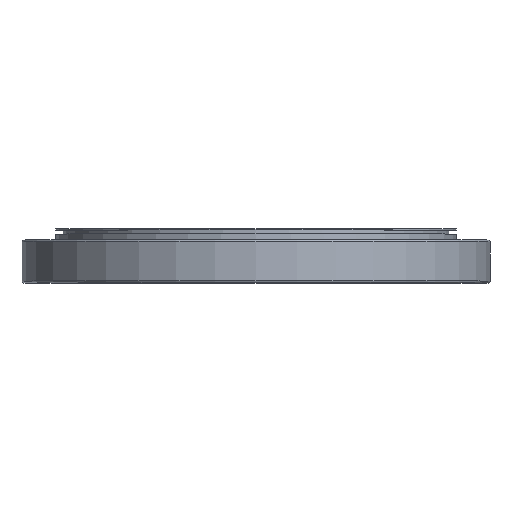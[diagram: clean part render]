
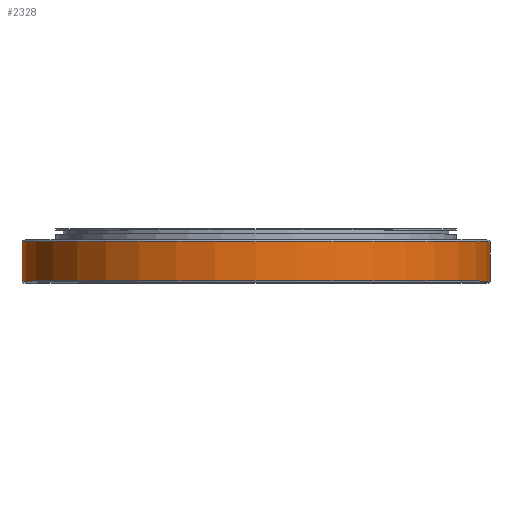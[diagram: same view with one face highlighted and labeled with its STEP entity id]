
A CAD part, top view. The second image highlights one B-rep face of the part: STEP entity #2328.
In plain terms, the highlighted cylindrical face has radius 242 mm (diameter 484 mm), a partial arc.
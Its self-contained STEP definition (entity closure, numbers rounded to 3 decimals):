
#857=DIRECTION('',(0.,-1.,0.));
#858=VECTOR('',#857,40.5);
#859=CARTESIAN_POINT('',(-242.,42.5,0.));
#860=LINE('',#859,#858);
#866=DIRECTION('',(0.,-1.,0.));
#867=VECTOR('',#866,40.5);
#868=CARTESIAN_POINT('',(242.,42.5,0.));
#869=LINE('',#868,#867);
#870=CARTESIAN_POINT('',(0.,42.5,0.));
#871=DIRECTION('',(0.,-1.,0.));
#872=DIRECTION('',(1.,0.,0.));
#873=AXIS2_PLACEMENT_3D('',#870,#871,#872);
#875=CARTESIAN_POINT('',(0.,2.,0.));
#876=DIRECTION('',(0.,-1.,0.));
#877=DIRECTION('',(1.,0.,0.));
#878=AXIS2_PLACEMENT_3D('',#875,#876,#877);
#1123=CARTESIAN_POINT('',(-242.,42.5,0.));
#1124=CARTESIAN_POINT('',(242.,42.5,0.));
#1125=VERTEX_POINT('',#1123);
#1126=VERTEX_POINT('',#1124);
#1135=CARTESIAN_POINT('',(-242.,2.,0.));
#1136=CARTESIAN_POINT('',(242.,2.,0.));
#1137=VERTEX_POINT('',#1135);
#1138=VERTEX_POINT('',#1136);
#2315=CARTESIAN_POINT('',(0.,0.,0.));
#2316=DIRECTION('',(0.,1.,0.));
#2317=DIRECTION('',(1.,0.,0.));
#2318=AXIS2_PLACEMENT_3D('',#2315,#2316,#2317);
#2319=CYLINDRICAL_SURFACE('',#2318,242.);
#2321=ORIENTED_EDGE('',*,*,#2320,.F.);
#2322=ORIENTED_EDGE('',*,*,#2310,.T.);
#2324=ORIENTED_EDGE('',*,*,#2323,.T.);
#2325=ORIENTED_EDGE('',*,*,#2306,.F.);
#2326=EDGE_LOOP('',(#2321,#2322,#2324,#2325));
#2327=FACE_OUTER_BOUND('',#2326,.F.);
#874=CIRCLE('',#873,242.);
#879=CIRCLE('',#878,242.);
#2306=EDGE_CURVE('',#1125,#1137,#860,.T.);
#2310=EDGE_CURVE('',#1126,#1138,#869,.T.);
#2320=EDGE_CURVE('',#1126,#1125,#874,.T.);
#2323=EDGE_CURVE('',#1138,#1137,#879,.T.);
#2328=ADVANCED_FACE('',(#2327),#2319,.T.);
